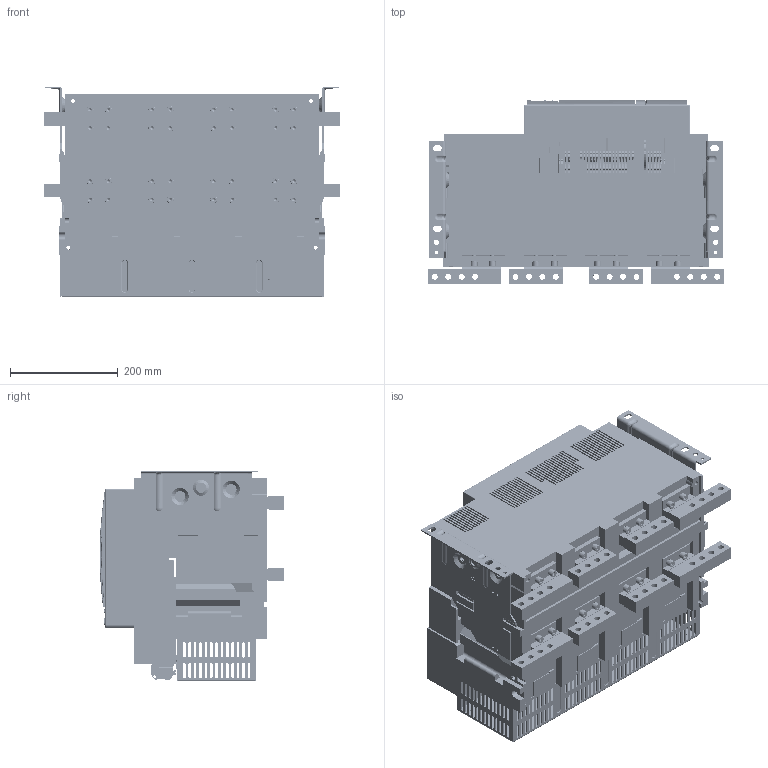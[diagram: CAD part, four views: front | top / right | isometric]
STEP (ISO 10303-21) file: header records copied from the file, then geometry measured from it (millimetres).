
FILE_DESCRIPTION(/* description */ (''),/* implementation_level */ '2;1');
FILE_NAME(/* name */ 'C:/Users/carlos.gonzalez/Documents/ADRIAN_TEMP_DRAWING/Ex9A40_4P_4000_F_PB_Drawing.step',/* time_stamp */ '2021-10-14T13:10:50+02:00',/* author */ (''),/* organization */ (''),/* preprocessor_version */ 'ST-DEVELOPER v18.1',/* originating_system */ 'Autodesk Translation Framework v10.10.0.1391',/* authorisation */ '');
FILE_SCHEMA (('AUTOMOTIVE_DESIGN { 1 0 10303 214 3 1 1 }'));
Products named in the file (41): Ex9A40_4P_4000_F; Auxiliary terminals; JIEXIANDUANZI-35_ASM; 8260A0306112; 3044526_UT25_TWIN_BU; 0800886_E-NS-35-N; 081808_UC_TM_2_5; Internal components; 8ZTD_123_166_2; 8ZTD_123_167_2; 8300A0306008; 8300A0101130-; 8060A0306108; 8060A0306109; 4000-JIZUO-4P; 4000-DIBAN-4P; Smart unit; 8005A0101008; 8860A1424009; 8320A0101004; 5043A0101001; Main terminals; GBT93-8; 8580A0412024; 8580A0412023; GBT70_1-M8X20; Cover; 5300A1526114_ASM; 8300A0101127_34; 8235A0101009_2; 8253A0101002_7; 8320A0101121-0814_3; 8860A0724001_4; 8ZTD_282_1203_AF1_6; 8ZTD_282_1203_AF2_6; 8253A0101107-1_5; 8253A0101106-1_5; 8860A1424194-1_1; 8282A0820014; 8253A0101010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
Assembly tree (210 placements, depth 4):
  Ex9A40_4P_4000_F
    Auxiliary terminals
      JIEXIANDUANZI-35_ASM
        8260A0306112
        3044526_UT25_TWIN_BU  x35
        0800886_E-NS-35-N  x2
        081808_UC_TM_2_5  x68
    Internal components
      8ZTD_123_166_2
      8ZTD_123_167_2
      8300A0306008
      8300A0101130-
      8060A0306108
      8060A0306109
      4000-JIZUO-4P
      4000-DIBAN-4P
    Smart unit
      8005A0101008
      8860A1424009
      8320A0101004
      5043A0101001
    Main terminals
      GBT70_1-M8X20  x32
      GBT93-8  x32
      8580A0412023  x4
      8580A0412024  x4
    Cover
      5300A1526114_ASM
        8300A0101127_34
        8235A0101009_2
        8253A0101002_7
        8320A0101121-0814_3
        8860A0724001_4
        8ZTD_282_1203_AF1_6
        8ZTD_282_1203_AF2_6
        8253A0101107-1_5
        8253A0101106-1_5
        8860A1424194-1_1
        8282A0820014
      8253A0101010
      8253A0101108-1
Bounding box: 550 x 343.49 x 392 mm (x, y, z)
Volume: 25633352.9 mm3; surface area: 3047444 mm2
Topology: 203 solids, 260 shells, 12267 faces, 33415 edges, 21803 vertices
Faces by surface type: plane 7539, cylinder 3677, bspline 390, cone 351, torus 238, sphere 72
Full cylindrical faces by diameter (mm): 2 x7, 2.1 x2, 2.5 x3, 2.6 x2, 3 x11, 3.5 x11, 4 x12, 4.2 x4, 4.3 x1, 4.5 x3, 5 x16, 5.008 x1, 6 x9, 6.1 x1, 6.5 x3, 6.647 x32, 7 x8, 8 x36, 8.2 x8, 8.3 x2, 8.5 x32, 9 x2, 10 x6, 11 x32, 12 x8, 12.5 x1, 13 x32, 14 x1, 15 x1, 16 x1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
Entity records: 218155 total; most frequent: CARTESIAN_POINT 85430, ORIENTED_EDGE 27852, DIRECTION 25930, EDGE_CURVE 13953, LINE 9628, VECTOR 9628, VERTEX_POINT 9079, AXIS2_PLACEMENT_3D 8151
